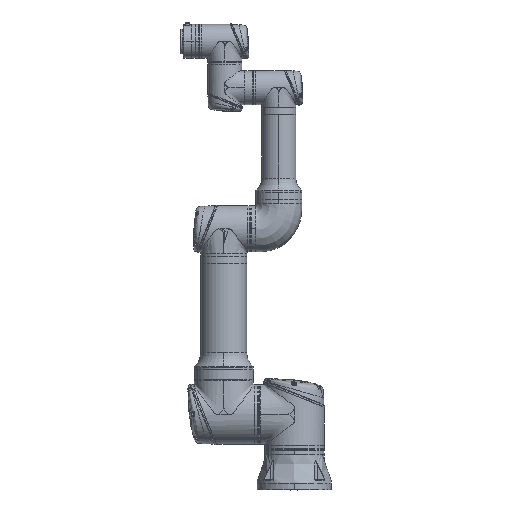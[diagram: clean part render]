
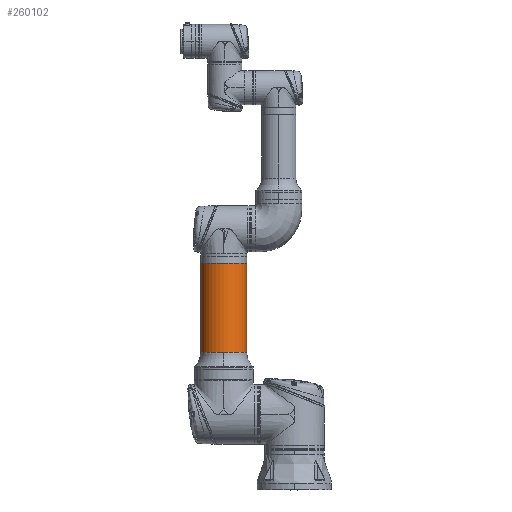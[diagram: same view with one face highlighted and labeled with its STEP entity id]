
A CAD part, top view. The second image highlights one B-rep face of the part: STEP entity #260102.
In plain terms, the highlighted cylindrical face has radius 59 mm (diameter 118 mm), a partial arc.
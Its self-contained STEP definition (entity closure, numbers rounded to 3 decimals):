
#3713 = CARTESIAN_POINT ( 'NONE',  ( 158.463, 0., -59. ) ) ;
#6493 = DIRECTION ( 'NONE',  ( 1., 0., 0. ) ) ;
#15385 = VERTEX_POINT ( 'NONE', #3713 ) ;
#20767 = CARTESIAN_POINT ( 'NONE',  ( 386.1, 0., 59. ) ) ;
#23722 = DIRECTION ( 'NONE',  ( 1., 0., 0. ) ) ;
#36802 = FACE_OUTER_BOUND ( 'NONE', #396797, .T. ) ;
#40679 = DIRECTION ( 'NONE',  ( 0., 0., -1. ) ) ;
#41988 = DIRECTION ( 'NONE',  ( 1., 0., 0. ) ) ;
#63842 = AXIS2_PLACEMENT_3D ( 'NONE', #424099, #354197, #150145 ) ;
#67189 = LINE ( 'NONE', #87819, #232595 ) ;
#84130 = ORIENTED_EDGE ( 'NONE', *, *, #306268, .T. ) ;
#87819 = CARTESIAN_POINT ( 'NONE',  ( 562.7, 0., 59. ) ) ;
#90748 = DIRECTION ( 'NONE',  ( 0., 1., 0. ) ) ;
#120411 = DIRECTION ( 'NONE',  ( 0., 0., -1. ) ) ;
#124914 = EDGE_CURVE ( 'NONE', #15385, #181721, #353491, .T. ) ;
#150145 = DIRECTION ( 'NONE',  ( 0., 1., 0. ) ) ;
#153874 = CIRCLE ( 'NONE', #231337, 59. ) ;
#181721 = VERTEX_POINT ( 'NONE', #260492 ) ;
#193344 = DIRECTION ( 'NONE',  ( 1., 0., 0. ) ) ;
#198142 = CARTESIAN_POINT ( 'NONE',  ( 386.1, 0., -59. ) ) ;
#208162 = VECTOR ( 'NONE', #41988, 1000. ) ;
#231337 = AXIS2_PLACEMENT_3D ( 'NONE', #327382, #193344, #120411 ) ;
#232595 = VECTOR ( 'NONE', #331945, 1000. ) ;
#236349 = AXIS2_PLACEMENT_3D ( 'NONE', #277497, #6493, #40679 ) ;
#239383 = CYLINDRICAL_SURFACE ( 'NONE', #236349, 59. ) ;
#260102 = ADVANCED_FACE ( 'NONE', ( #36802 ), #239383, .T. ) ;
#260492 = CARTESIAN_POINT ( 'NONE',  ( 158.463, 59., 0. ) ) ;
#262333 = EDGE_CURVE ( 'NONE', #278840, #342140, #153874, .T. ) ;
#276661 = ORIENTED_EDGE ( 'NONE', *, *, #295263, .F. ) ;
#277497 = CARTESIAN_POINT ( 'NONE',  ( 562.7, 0., 0. ) ) ;
#278840 = VERTEX_POINT ( 'NONE', #198142 ) ;
#293249 = CARTESIAN_POINT ( 'NONE',  ( 158.463, 0., 0. ) ) ;
#295263 = EDGE_CURVE ( 'NONE', #15385, #278840, #346566, .T. ) ;
#299989 = CIRCLE ( 'NONE', #436610, 59. ) ;
#306268 = EDGE_CURVE ( 'NONE', #375785, #342140, #67189, .T. ) ;
#318710 = ORIENTED_EDGE ( 'NONE', *, *, #262333, .F. ) ;
#323194 = ORIENTED_EDGE ( 'NONE', *, *, #417043, .T. ) ;
#327382 = CARTESIAN_POINT ( 'NONE',  ( 386.1, 0., 0. ) ) ;
#331945 = DIRECTION ( 'NONE',  ( 1., 0., 0. ) ) ;
#342140 = VERTEX_POINT ( 'NONE', #20767 ) ;
#346566 = LINE ( 'NONE', #348777, #208162 ) ;
#348258 = CARTESIAN_POINT ( 'NONE',  ( 158.463, 0., 59. ) ) ;
#348777 = CARTESIAN_POINT ( 'NONE',  ( 562.7, 0., -59. ) ) ;
#353491 = CIRCLE ( 'NONE', #63842, 59. ) ;
#354197 = DIRECTION ( 'NONE',  ( 1., 0., 0. ) ) ;
#375785 = VERTEX_POINT ( 'NONE', #348258 ) ;
#396797 = EDGE_LOOP ( 'NONE', ( #397936, #323194, #84130, #318710, #276661 ) ) ;
#397936 = ORIENTED_EDGE ( 'NONE', *, *, #124914, .T. ) ;
#417043 = EDGE_CURVE ( 'NONE', #181721, #375785, #299989, .T. ) ;
#424099 = CARTESIAN_POINT ( 'NONE',  ( 158.463, 0., 0. ) ) ;
#436610 = AXIS2_PLACEMENT_3D ( 'NONE', #293249, #23722, #90748 ) ;
